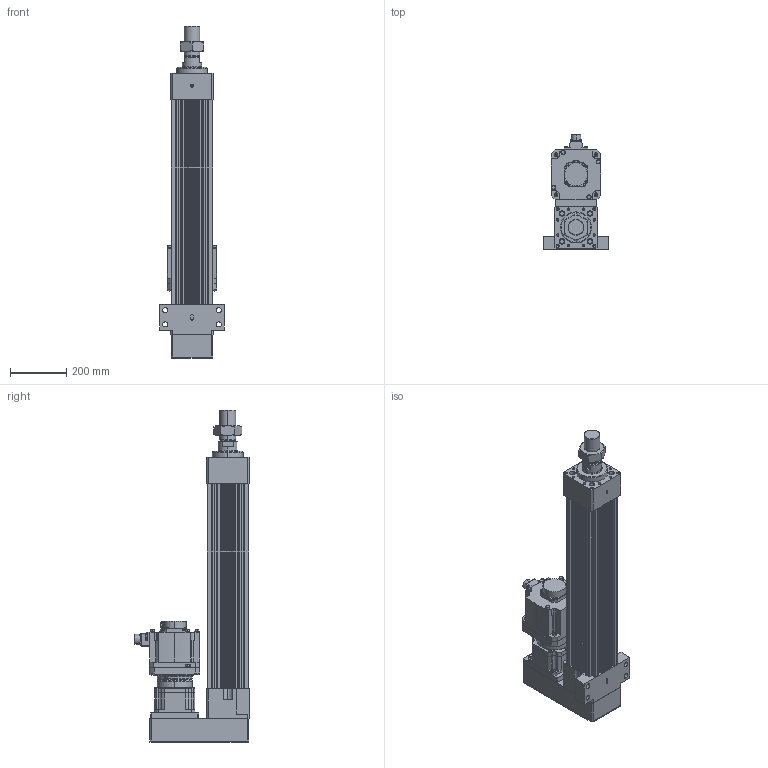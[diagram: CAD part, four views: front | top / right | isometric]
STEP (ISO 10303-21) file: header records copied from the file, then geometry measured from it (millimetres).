
FILE_DESCRIPTION (( 'STEP AP203' ), '1' );
FILE_NAME ('HES150NS(HS)-P450-W035G00-M-FFC.STEP', '2023-01-31T09:48:09', ( 'tms' ), ( '' ), 'SwSTEP 2.0', 'SolidWorks 2013', '' );
FILE_SCHEMA (( 'CONFIG_CONTROL_DESIGN' ));
Length unit declared in the file: millimetre
Products named in the file (9): HES150NS(HS)-P450-W035G00-M-FFC; HG-SR352; P1301500001; AB1421; HES150 ROD M ST450; HES150-P450-G142-FFC; M56X2.0P; P0403500801; AB142-003[HG-SR352]
Assembly tree (8 placements, depth 3):
  HES150NS(HS)-P450-W035G00-M-FFC
    HES150-P450-G142-FFC
    HES150 ROD M ST450
    M56X2.0P
    AB142-003[HG-SR352]
      AB1421
      P1301500001
      P0403500801
    HG-SR352
Bounding box: 230 x 403.85 x 1176 mm (x, y, z)
Volume: 19779486 mm3; surface area: 1965918.5 mm2
Topology: 4 solids, 18 shells, 1470 faces, 3831 edges, 2471 vertices
Faces by surface type: cylinder 693, plane 529, cone 166, bspline 76, torus 6
Entity records: 53945 total; most frequent: CARTESIAN_POINT 16549, DIRECTION 7839, ORIENTED_EDGE 7520, EDGE_CURVE 3782, AXIS2_PLACEMENT_3D 2986, VERTEX_POINT 2471, LINE 1867, VECTOR 1867
